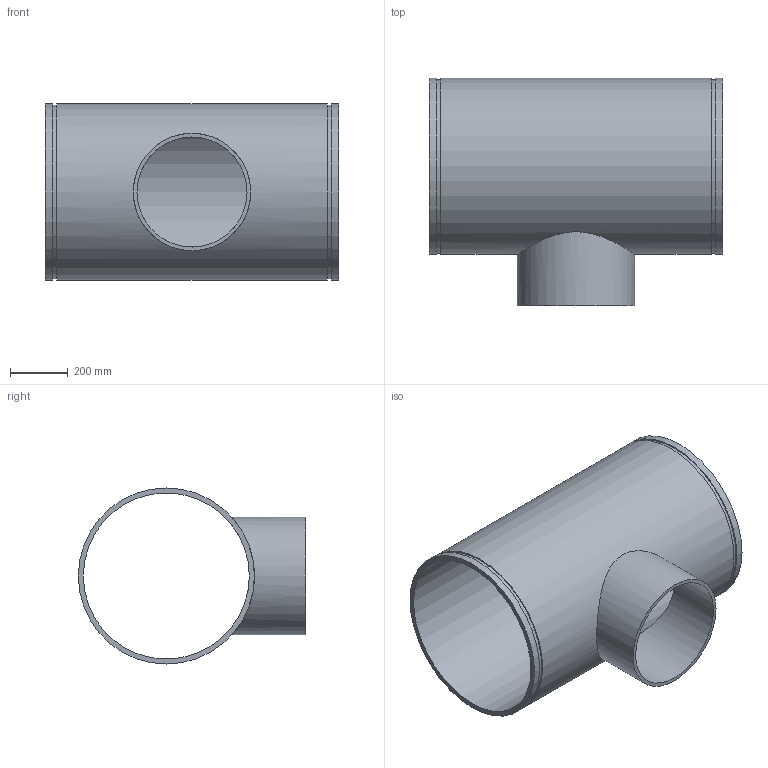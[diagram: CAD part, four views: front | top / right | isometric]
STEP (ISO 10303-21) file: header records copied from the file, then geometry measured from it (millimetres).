
FILE_DESCRIPTION(/* description */ ('VIC REDUCING TEE No 29T FFT (OGSxMPT)','CAx-IF Rec.Pracs.---Representation and Presentation of Product Manufacturing Information (PMI)---4.0---2014-10-13'),/* implementation_level */ '2;1');
FILE_NAME(/* name */ 'C:\Users\kkamble\AppData\Roaming\Autodesk\ApplicationPlugins\Back Up\Victaulic_IPS_Tee Reducing_No 29T FFT (OGSxMPT)\Victaulic_IPS_Tee Reducing_No 29T FFT (OGSxMPT)_24.0x16.0 (600x400).stp',/* time_stamp */ '2020-09-16T22:40:45+05:00',/* author */ ('CORINNE GRAY'),/* organization */ ('Victaulic'),/* preprocessor_version */ 'ST-DEVELOPER v17.2',/* originating_system */ 'Autodesk Inventor 2019',/* authorisation */ '');
FILE_SCHEMA (('AP242_MANAGED_MODEL_BASED_3D_ENGINEERING_MIM_LF { 1 0 10303 442 1 1 4 }'));
Length unit declared in the file: inch
Products named in the file (1): 29 FFT-24.0x16.0
Bounding box: 1016 x 787.4 x 609.6 mm (x, y, z)
Volume: 33971426.7 mm3; surface area: 4183188.5 mm2
Topology: 1 solids, 1 shells, 15 faces, 32 edges, 24 vertices
Faces by surface type: cylinder 8, plane 7
Full cylindrical faces by diameter (mm): 381 x1, 406.4 x1, 574.7 x1, 600.862 x2, 609.6 x3
Entity records: 773 total; most frequent: CARTESIAN_POINT 285, DIRECTION 106, ORIENTED_EDGE 64, AXIS2_PLACEMENT_3D 49, EDGE_CURVE 32, EDGE_LOOP 24, VERTEX_POINT 24, CIRCLE 20
